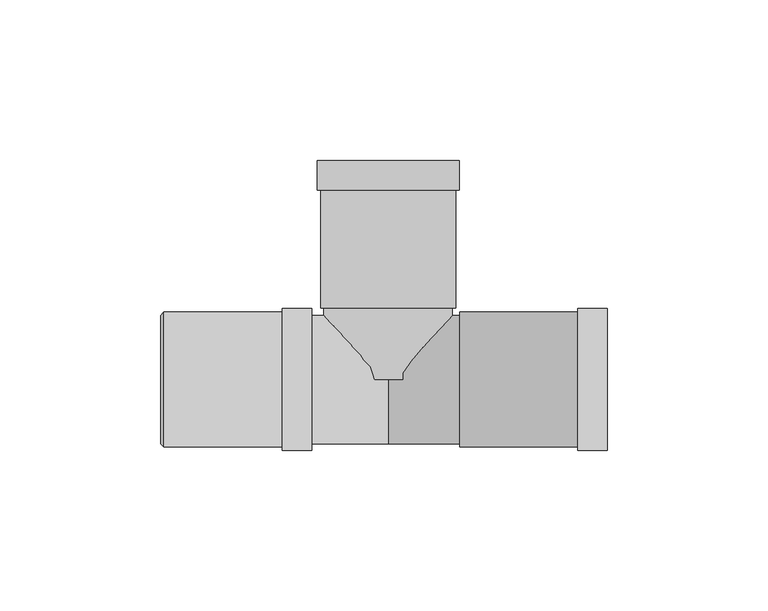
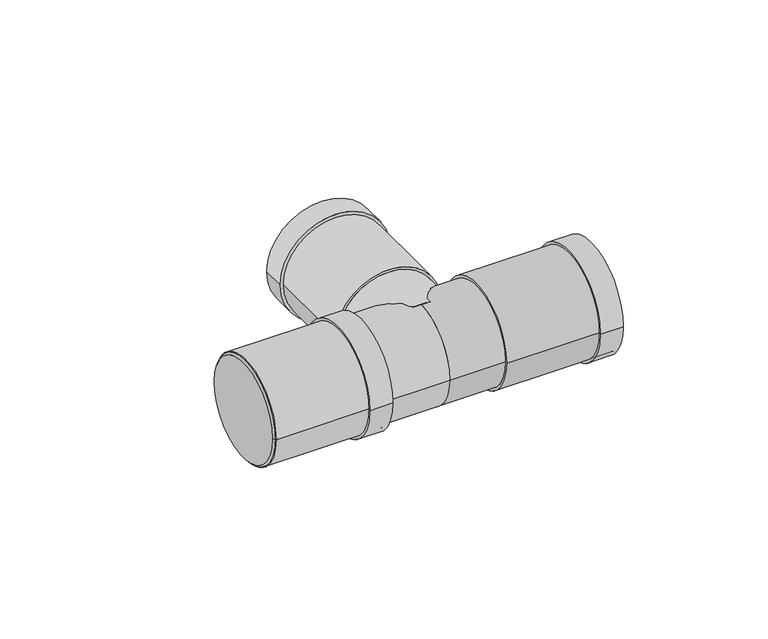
"""IFC4 building model written with IfcOpenShell, lengths in millimetres: pipe fitting geometry, Superdrain HTEA Branch : Superdrain HTEA Branch."""

from ifc_helpers import new_model, si_unit, point, frame, origin, origin_2d, place, context, project, spatial, polyline, circle_curve, trimmed, segment, composite_curve, outline, extrude, source, transform, mapped, element, save
from ifc_brep_helpers import plane_surface, revolved_surface, advanced_brep


def pipe_fitting_b32571a5(model_context):
    return source(origin(), model_context, "Body", "SolidModel", [
        extrude(outline(composite_curve([segment(trimmed(circle_curve(origin_2d(), 21.0), [point((21.0, 0.0))], [point((-21.0, 0.0))], False, "CARTESIAN"), True, "CONTINUOUS"), segment(trimmed(circle_curve(origin_2d(), 21.0), [point((-21.0, 0.0))], [point((21.0, 0.0))], False, "CARTESIAN"), True, "CONTINUOUS")], self_intersect=False), holes=[composite_curve([segment(trimmed(circle_curve(origin_2d(), 20.0), [point((20.0, 0.0))], [point((-20.0, 0.0))], True, "CARTESIAN"), True, "CONTINUOUS"), segment(trimmed(circle_curve(origin_2d(), 20.0), [point((-20.0, 0.0))], [point((20.0, 0.0))], True, "CARTESIAN"), True, "CONTINUOUS")], self_intersect=False)]), frame((-69.8, 0.0, 0.0), z_axis=(1.0, 0.0, 0.0), x_axis=(0.0, 1.0, 0.0)), (0.0, 0.0, 1.0), 46.0),
        extrude(outline(composite_curve([segment(trimmed(circle_curve(origin_2d(), 22.05), [point((22.05, 0.0))], [point((-22.05, 0.0))], False, "CARTESIAN"), True, "CONTINUOUS"), segment(trimmed(circle_curve(origin_2d(), 22.05), [point((-22.05, 0.0))], [point((22.05, 0.0))], False, "CARTESIAN"), True, "CONTINUOUS")], self_intersect=False), holes=[composite_curve([segment(trimmed(circle_curve(origin_2d(), 20.0), [point((20.0, 0.0))], [point((-20.0, 0.0))], True, "CARTESIAN"), True, "CONTINUOUS"), segment(trimmed(circle_curve(origin_2d(), 20.0), [point((-20.0, 0.0))], [point((20.0, 0.0))], True, "CARTESIAN"), True, "CONTINUOUS")], self_intersect=False)]), frame((-33.0, 0.0, 0.0), z_axis=(1.0, 0.0, 0.0), x_axis=(0.0, 1.0, 0.0)), (0.0, 0.0, 1.0), 9.2),
        advanced_brep(
        [(-70.8, 20.0, 0.0), (-70.8, -20.0, 0.0), (-69.8, 21.0, 0.0), (-69.8, -21.0, 0.0)],
        [
            (0, 1, circle_curve(frame((-70.8, 0.0, 0.0), z_axis=(-1.0, 0.0, 0.0), x_axis=(0.0, 1.0000000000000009, 0.0)), 20.0)),
            (1, 0, circle_curve(frame((-70.8, 0.0, 0.0), z_axis=(-1.0, 0.0, 0.0), x_axis=(0.0, -1.0000000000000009, 0.0)), 20.0)),
            (2, 3, circle_curve(frame((-69.8, 0.0, 0.0), z_axis=(1.0, 0.0, 0.0), x_axis=(0.0, -1.0000000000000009, 0.0)), 21.0)),
            (3, 2, circle_curve(frame((-69.8, 0.0, 0.0), z_axis=(1.0, 0.0, 0.0), x_axis=(0.0, 1.0000000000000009, 0.0)), 21.0)),
            (3, 1),
            (0, 2),
        ],
        [
            plane_surface(frame((-70.8, 0.0, 0.0), z_axis=(-1.0, 0.0, 0.0), x_axis=(0.0, 0.0, -1.0))),
            plane_surface(frame((-69.8, 0.0, 0.0), z_axis=(1.0, 0.0, 0.0), x_axis=(0.0, 0.0, -1.0))),
            revolved_surface(polyline([(-70.8, 19.999999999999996, 0.0), (-69.8, 21.0, 0.0)]), (-90.8, 0.0, 0.0), (1.0000000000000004, 0.0, 0.0)),
            revolved_surface(polyline([(-70.8, -19.999999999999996, 0.0), (-69.8, -21.0, 0.0)]), (-90.8, 0.0, 0.0), (1.0000000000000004, 0.0, 0.0)),
        ],
        [
            (0, [[1, 2]]),
            (1, [[3, 4]]),
            (2, [[-4, 5, -1, 6]]),
            (3, [[-3, -6, -2, -5]]),
        ],
    ),
        extrude(outline(composite_curve([segment(trimmed(circle_curve(origin_2d(), 21.0), [point((-21.0, 0.0))], [point((21.0, 0.0))], False, "CARTESIAN"), True, "CONTINUOUS"), segment(trimmed(circle_curve(origin_2d(), 21.0), [point((21.0, 0.0))], [point((-21.0, 0.0))], False, "CARTESIAN"), True, "CONTINUOUS")], self_intersect=False), holes=[composite_curve([segment(trimmed(circle_curve(origin_2d(), 20.0), [point((20.0, 0.0))], [point((-20.0, 0.0))], True, "CARTESIAN"), True, "CONTINUOUS"), segment(trimmed(circle_curve(origin_2d(), 20.0), [point((-20.0, 0.0))], [point((20.0, 0.0))], True, "CARTESIAN"), True, "CONTINUOUS")], self_intersect=False)]), frame((22.2, 0.0, 0.0), z_axis=(1.0, 0.0, 0.0), x_axis=(0.0, 1.0, 0.0)), (0.0, 0.0, 1.0), 46.0),
        extrude(outline(composite_curve([segment(trimmed(circle_curve(origin_2d(), 22.05), [point((22.05, 0.0))], [point((-22.05, 0.0))], False, "CARTESIAN"), True, "CONTINUOUS"), segment(trimmed(circle_curve(origin_2d(), 22.05), [point((-22.05, 0.0))], [point((22.05, 0.0))], False, "CARTESIAN"), True, "CONTINUOUS")], self_intersect=False), holes=[composite_curve([segment(trimmed(circle_curve(origin_2d(), 20.0), [point((20.0, 0.0))], [point((-20.0, 0.0))], True, "CARTESIAN"), True, "CONTINUOUS"), segment(trimmed(circle_curve(origin_2d(), 20.0), [point((-20.0, 0.0))], [point((20.0, 0.0))], True, "CARTESIAN"), True, "CONTINUOUS")], self_intersect=False)]), frame((59.0, 0.0, 0.0), z_axis=(1.0, 0.0, 0.0), x_axis=(0.0, 1.0, 0.0)), (0.0, 0.0, 1.0), 9.2),
        extrude(outline(composite_curve([segment(trimmed(circle_curve(origin_2d(), 20.0), [point((0.0, 20.0))], [point((0.0, -20.0))], False, "CARTESIAN"), True, "CONTINUOUS"), segment(trimmed(circle_curve(origin_2d(), 20.0), [point((0.0, -20.0))], [point((0.0, 20.0))], False, "CARTESIAN"), True, "CONTINUOUS")], self_intersect=False)), frame((0.0, 0.0, 0.0), z_axis=(0.0, 1.0, 0.0), x_axis=(0.0, 0.0, 1.0)), (0.0, 0.0, 1.0), 22.2),
        extrude(outline(composite_curve([segment(trimmed(circle_curve(origin_2d(), 20.0), [point((20.0, 0.0))], [point((-20.0, 0.0))], False, "CARTESIAN"), True, "CONTINUOUS"), segment(trimmed(circle_curve(origin_2d(), 20.0), [point((-20.0, 0.0))], [point((20.0, 0.0))], False, "CARTESIAN"), True, "CONTINUOUS")], self_intersect=False)), frame((-69.8, 0.0, 0.0), z_axis=(1.0, 0.0, 0.0), x_axis=(0.0, 1.0, 0.0)), (0.0, 0.0, 1.0), 69.8),
        extrude(outline(composite_curve([segment(trimmed(circle_curve(origin_2d(), 20.0), [point((-20.0, 0.0))], [point((20.0, 0.0))], False, "CARTESIAN"), True, "CONTINUOUS"), segment(trimmed(circle_curve(origin_2d(), 20.0), [point((20.0, 0.0))], [point((-20.0, 0.0))], False, "CARTESIAN"), True, "CONTINUOUS")], self_intersect=False)), frame((0.0, 0.0, 0.0), z_axis=(1.0, 0.0, 0.0), x_axis=(0.0, 1.0, 0.0)), (0.0, 0.0, 1.0), 22.2),
        extrude(outline(composite_curve([segment(trimmed(circle_curve(origin_2d(), 22.05), [point((0.0, 22.05))], [point((0.0, -22.05))], False, "CARTESIAN"), True, "CONTINUOUS"), segment(trimmed(circle_curve(origin_2d(), 22.05), [point((0.0, -22.05))], [point((0.0, 22.05))], False, "CARTESIAN"), True, "CONTINUOUS")], self_intersect=False), holes=[composite_curve([segment(trimmed(circle_curve(origin_2d(), 20.0), [point((0.0, 20.0))], [point((0.0, -20.0))], True, "CARTESIAN"), True, "CONTINUOUS"), segment(trimmed(circle_curve(origin_2d(), 20.0), [point((0.0, -20.0))], [point((0.0, 20.0))], True, "CARTESIAN"), True, "CONTINUOUS")], self_intersect=False)]), frame((0.0, 59.0, 0.0), z_axis=(0.0, 1.0, 0.0), x_axis=(0.0, 0.0, 1.0)), (0.0, 0.0, 1.0), 9.2),
        extrude(outline(composite_curve([segment(trimmed(circle_curve(origin_2d(), 21.0), [point((0.0, 21.0))], [point((0.0, -21.0))], False, "CARTESIAN"), True, "CONTINUOUS"), segment(trimmed(circle_curve(origin_2d(), 21.0), [point((0.0, -21.0))], [point((0.0, 21.0))], False, "CARTESIAN"), True, "CONTINUOUS")], self_intersect=False), holes=[composite_curve([segment(trimmed(circle_curve(origin_2d(), 20.0), [point((0.0, 20.0))], [point((0.0, -20.0))], True, "CARTESIAN"), True, "CONTINUOUS"), segment(trimmed(circle_curve(origin_2d(), 20.0), [point((0.0, -20.0))], [point((0.0, 20.0))], True, "CARTESIAN"), True, "CONTINUOUS")], self_intersect=False)]), frame((0.0, 22.2, 0.0), z_axis=(0.0, 1.0, 0.0), x_axis=(0.0, 0.0, 1.0)), (0.0, 0.0, 1.0), 46.0),
    ])


if __name__ == "__main__":
    model = new_model("IFC4")
    model_context = context("Model", 3, world=origin())
    ifc_project = project(units=[si_unit("LENGTHUNIT", "METRE", prefix="MILLI")], contexts=[model_context])
    site = spatial("IfcSite", under=ifc_project)
    building = spatial("IfcBuilding", under=site)
    placement = place(None, origin())
    pipe_fitting_shape = pipe_fitting_b32571a5(model_context)
    element("IfcPipeFitting", 1, ObjectType="Superdrain HTEA Branch : Superdrain HTEA Branch", at=placement, inside=building, context=model_context, shape_type="MappedRepresentation", body=[
        mapped(pipe_fitting_shape, transform((0.0, 0.0, 0.0), x_axis=(1.0, 0.0, 0.0), y_axis=(0.0, 1.0, 0.0), z_axis=(0.0, 0.0, 1.0))),
    ])
    save(model, "model.ifc")
